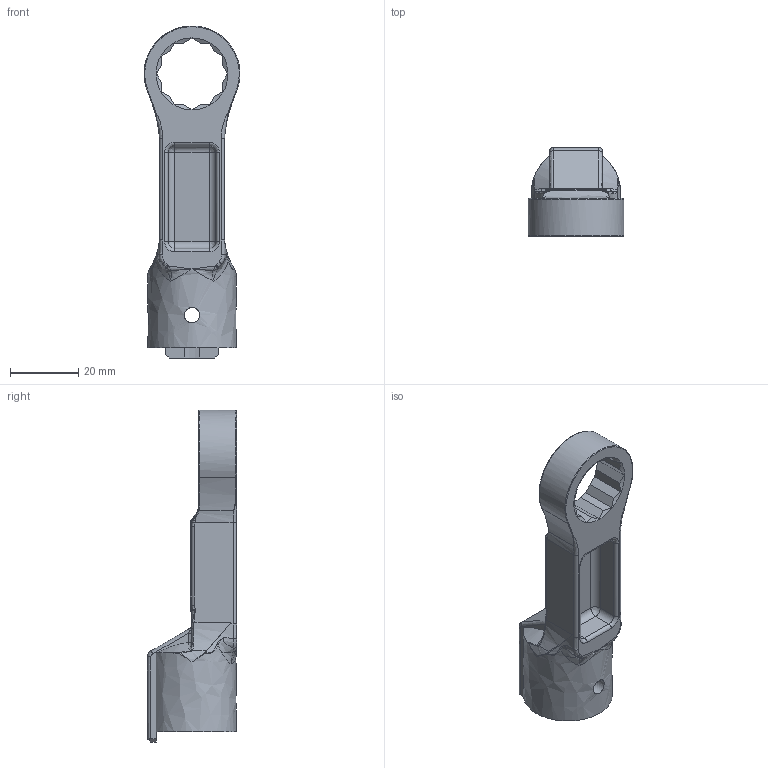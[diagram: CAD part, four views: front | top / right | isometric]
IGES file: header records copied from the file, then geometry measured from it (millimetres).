
Global section: file name: RH19DX18; native system: Autodesk Inventor 2016; preprocessor: unknown; author: q543; date: 20151110.165130; units: millimetre
Bounding box: 28 x 26 x 96.99 mm (x, y, z)
Volume: 18011.7 mm3; surface area: 9656.5 mm2
Topology: 1 solids, 1 shells, 235 faces, 581 edges, 328 vertices
Faces by surface type: bspline 235
